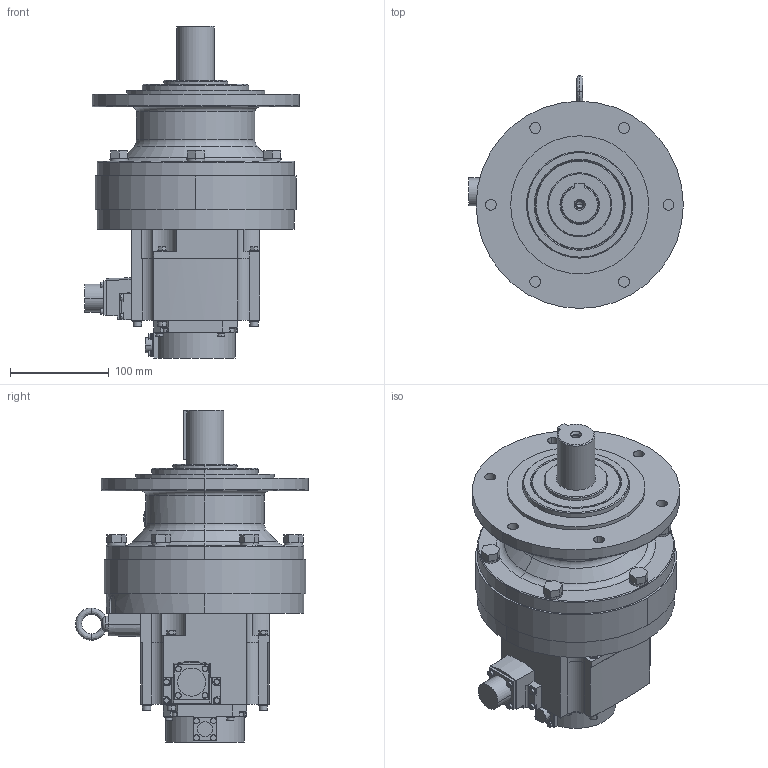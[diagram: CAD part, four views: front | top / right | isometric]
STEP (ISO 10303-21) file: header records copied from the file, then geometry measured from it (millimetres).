
FILE_DESCRIPTION((''),'2;1');
FILE_NAME('HG-SR52G1_354359_','2013-03-13T',('FC54009'),(''),'PRO/ENGINEER BY PARAMETRIC TECHNOLOGY CORPORATION, 2009400','PRO/ENGINEER BY PARAMETRIC TECHNOLOGY CORPORATION, 2009400','');
FILE_SCHEMA(('CONFIG_CONTROL_DESIGN'));
Length unit declared in the file: millimetre
Products named in the file (1): HG-SR52G1_354359_
Bounding box: 217.49 x 236.28 x 336.5 mm (x, y, z)
Volume: 5192739.9 mm3; surface area: 272429.9 mm2
Topology: 1 solids, 2 shells, 669 faces, 1577 edges, 995 vertices
Faces by surface type: plane 392, cylinder 221, cone 33, torus 19, bspline 4
Entity records: 20477 total; most frequent: CARTESIAN_POINT 4565, DIRECTION 3511, ORIENTED_EDGE 3146, EDGE_CURVE 1573, AXIS2_PLACEMENT_3D 1323, VERTEX_POINT 995, VECTOR 865, LINE 865
